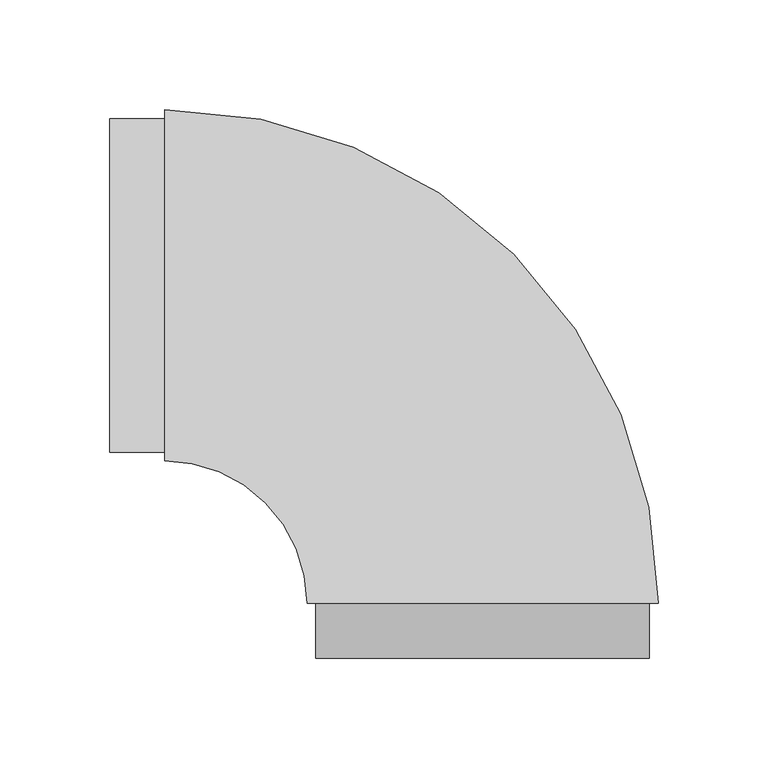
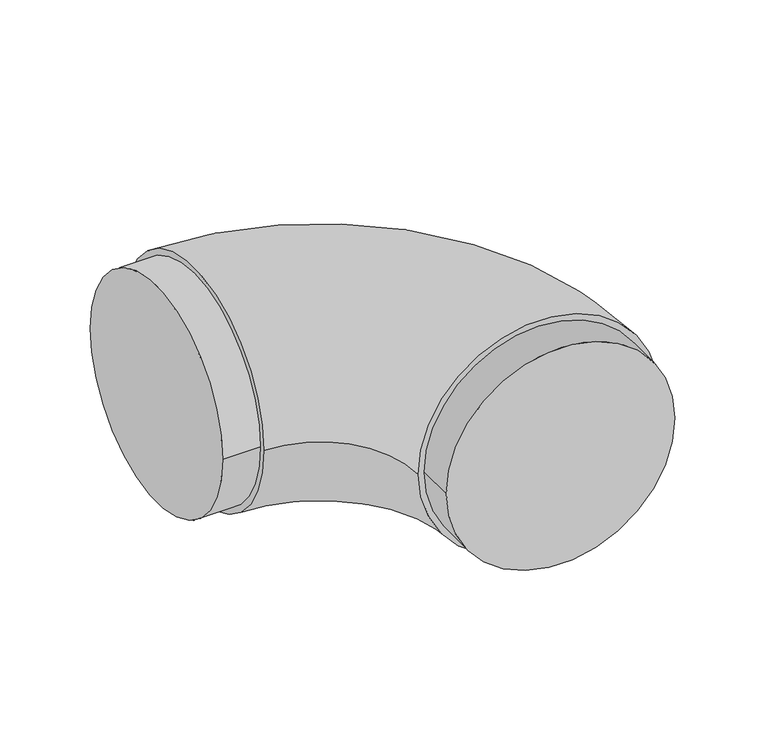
"""IFC4 building model written with IfcOpenShell, lengths in millimetres: pipe fitting geometry, Codo 90º Soldadura a Tope SDR 11 BluePipe : Estándar."""

import ifcopenshell
import ifcopenshell.guid

model = None  # the IFC model being written
_history = None  # IfcOwnerHistory: only IFC2X3 demands one
_inside = {}  # id of a spatial element -> (the spatial element, [elements in it])
_under = {}  # id of a project, library or spatial element -> (it, [spatial elements below it])
_declared = {}  # id of a project -> (the project, [libraries it declares])
_typed = {}  # id of a type object -> (the type object, [elements of that type])
_made_of = {}  # id of a material, layer set ... -> (it, [elements and type objects made of it])


def new_model(schema):
    """Start an empty IFC model of exactly this schema.

    Asked for "IFC4X3", IfcOpenShell would pick the latest addendum, in which some entities
    have other attributes; the version numbers below select the first issue.
    IFC2X3 requires an IfcOwnerHistory on every rooted entity: one is made here for all.
    """
    global model, _history
    if schema == "IFC4X3":
        model = ifcopenshell.file(schema_version=(4, 3, 0, 0))
    else:
        model = ifcopenshell.file(schema=schema)
    _inside.clear()
    _under.clear()
    _declared.clear()
    _typed.clear()
    _made_of.clear()
    _history = None
    if model.schema == "IFC2X3":
        org = make("IfcOrganization", Name="unknown")
        user = make(
            "IfcPersonAndOrganization",
            ThePerson=make("IfcPerson", FamilyName="unknown"),
            TheOrganization=org,
        )
        app = make(
            "IfcApplication",
            ApplicationDeveloper=org,
            Version="unknown",
            ApplicationFullName="unknown",
            ApplicationIdentifier="unknown",
        )
        _history = make(
            "IfcOwnerHistory",
            OwningUser=user,
            OwningApplication=app,
            ChangeAction="ADDED",
            CreationDate=0,
        )
    return model


def make(cls, **values):
    """One entity of the class cls with the attributes given. An attribute that is None is left unset."""
    return model.create_entity(
        cls, **{name: value for name, value in values.items() if value is not None}
    )


def rooted(cls, **values):
    """An entity with a GlobalId (a new one), such as an element, a storey or a relation."""
    return make(cls, GlobalId=ifcopenshell.guid.new(), OwnerHistory=_history, **values)


def si_unit(unit_type, name, prefix=None):
    """IfcSIUnit, for example si_unit("LENGTHUNIT", "METRE", prefix="MILLI")."""
    return make("IfcSIUnit", UnitType=unit_type, Prefix=prefix, Name=name)


def assignment(units):
    """IfcUnitAssignment: the units of a project."""
    return None if units is None else make("IfcUnitAssignment", Units=units)


def point(xyz):
    """IfcCartesianPoint."""
    return None if xyz is None else make("IfcCartesianPoint", Coordinates=xyz)


def direction(xyz):
    """IfcDirection."""
    return None if xyz is None else make("IfcDirection", DirectionRatios=xyz)


def frame(location, z_axis=None, x_axis=None):
    """IfcAxis2Placement3D, a coordinate frame: its origin and axes. An axis left out is left unset."""
    return make(
        "IfcAxis2Placement3D",
        Location=point(location),
        Axis=direction(z_axis),
        RefDirection=direction(x_axis),
    )


def frame_2d(location, x_axis=None):
    """IfcAxis2Placement2D, a coordinate frame in the plane: its origin and x axis."""
    return make(
        "IfcAxis2Placement2D", Location=point(location), RefDirection=direction(x_axis)
    )


def origin():
    """The frame at (0, 0, 0) with its axes left unset."""
    return frame((0.0, 0.0, 0.0))


def origin_2d():
    """The frame at (0, 0) in the plane with its x axis left unset."""
    return frame_2d((0.0, 0.0))


def place(relative_to, where):
    """IfcLocalPlacement: puts the frame where relative to a parent placement (None: the world)."""
    return make(
        "IfcLocalPlacement", PlacementRelTo=relative_to, RelativePlacement=where
    )


def context(
    kind, dimensions, precision=None, world=None, true_north=None, identifier=None
):
    """IfcGeometricRepresentationContext, for example the 3D "Model" context."""
    return make(
        "IfcGeometricRepresentationContext",
        ContextIdentifier=identifier,
        ContextType=kind,
        CoordinateSpaceDimension=dimensions,
        Precision=precision,
        WorldCoordinateSystem=world,
        TrueNorth=true_north,
    )


def project(units=None, contexts=None):
    """IfcProject with its units and contexts."""
    return rooted(
        "IfcProject",
        Name="project",
        RepresentationContexts=contexts,
        UnitsInContext=assignment(units),
    )


def spatial(cls, under=None, at=None, **own):
    """A site, building, storey or space (cls), placed at a placement, below another one or the project."""
    s = rooted(cls, ObjectPlacement=at, **own)
    if under is not None:
        _under.setdefault(under.id(), (under, []))[1].append(s)
    return s


def circle_curve(where, radius):
    """IfcCircle in the frame where."""
    return make("IfcCircle", Position=where, Radius=radius)


def ellipse_curve(where, semi_axis1, semi_axis2):
    """IfcEllipse in the frame where."""
    return make(
        "IfcEllipse", Position=where, SemiAxis1=semi_axis1, SemiAxis2=semi_axis2
    )


def trimmed(basis, trim1, trim2, sense, master):
    """IfcTrimmedCurve: the piece of a basis curve between two trims."""
    return make(
        "IfcTrimmedCurve",
        BasisCurve=basis,
        Trim1=trim1,
        Trim2=trim2,
        SenseAgreement=sense,
        MasterRepresentation=master,
    )


def segment(curve, same_sense, transition):
    """IfcCompositeCurveSegment."""
    return make(
        "IfcCompositeCurveSegment",
        Transition=transition,
        SameSense=same_sense,
        ParentCurve=curve,
    )


def composite_curve(segments, self_intersect=None):
    """IfcCompositeCurve: segments joined end to end."""
    return make("IfcCompositeCurve", Segments=segments, SelfIntersect=self_intersect)


def outline(outer, holes=None, kind="AREA"):
    """IfcArbitraryClosedProfileDef: a profile drawn as a closed curve; with holes, ...WithVoids."""
    if holes is None:
        return make("IfcArbitraryClosedProfileDef", ProfileType=kind, OuterCurve=outer)
    return make(
        "IfcArbitraryProfileDefWithVoids",
        ProfileType=kind,
        OuterCurve=outer,
        InnerCurves=holes,
    )


def extrude(swept, where, along, depth):
    """IfcExtrudedAreaSolid: the profile swept, set in the frame where, extruded along a direction by depth."""
    return make(
        "IfcExtrudedAreaSolid",
        SweptArea=swept,
        Position=where,
        ExtrudedDirection=direction(along),
        Depth=depth,
    )


def shape(context_of_items, identifier, shape_type, items):
    """IfcShapeRepresentation: the items that make up one representation, for example the "Body"."""
    return make(
        "IfcShapeRepresentation",
        ContextOfItems=context_of_items,
        RepresentationIdentifier=identifier,
        RepresentationType=shape_type,
        Items=items,
    )


def source(mapping_origin, context_of_items, identifier, shape_type, items):
    """IfcRepresentationMap: a shape defined once, which mapped items show again and again."""
    return make(
        "IfcRepresentationMap",
        MappingOrigin=mapping_origin,
        MappedRepresentation=shape(context_of_items, identifier, shape_type, items),
    )


def transform(
    local_origin,
    x_axis=None,
    y_axis=None,
    z_axis=None,
    scale=None,
    scale2=None,
    scale3=None,
    uniform=True,
):
    """IfcCartesianTransformationOperator3D, or its non-uniform kind. x_axis, y_axis, z_axis: its Axis1, 2, 3."""
    if uniform:
        return make(
            "IfcCartesianTransformationOperator3D",
            Axis1=direction(x_axis),
            Axis2=direction(y_axis),
            LocalOrigin=point(local_origin),
            Scale=scale,
            Axis3=direction(z_axis),
        )
    return make(
        "IfcCartesianTransformationOperator3DnonUniform",
        Axis1=direction(x_axis),
        Axis2=direction(y_axis),
        LocalOrigin=point(local_origin),
        Scale=scale,
        Axis3=direction(z_axis),
        Scale2=scale2,
        Scale3=scale3,
    )


def mapped(mapping_source, mapping_target):
    """IfcMappedItem: shows the shape of a source again, moved by a transform."""
    return make(
        "IfcMappedItem", MappingSource=mapping_source, MappingTarget=mapping_target
    )


def made_of(thing, what):
    """Note that an element or type object is made of a material, layer set ...; save() writes the relation."""
    if what is not None:
        _made_of.setdefault(what.id(), (what, []))[1].append(thing)
    return thing


def element(
    cls,
    number,
    at=None,
    inside=None,
    cuts=None,
    type_object=None,
    material=None,
    context=None,
    identifier="Body",
    shape_type=None,
    held_by="IfcProductDefinitionShape",
    body=None,
    shapes=None,
    **own,
):
    """One element of the class cls, such as IfcWall. Its Tag is "e" and its number.

    at: its placement. inside: the storey or other place that contains it. cuts: it is an
    opening in that element (IfcRelVoidsElement). A single representation is given by context,
    identifier, shape_type and body (its items); several are given by shapes. held_by: the class
    of the entity that holds the representations. save() writes the other relations.
    """
    e = rooted(cls, Tag="e%d" % number, ObjectPlacement=at, **own)
    if body is not None:
        shapes = [shape(context, identifier, shape_type, body)]
    if shapes is not None:
        e.Representation = make(held_by, Representations=shapes)
    if inside is not None:
        _inside.setdefault(inside.id(), (inside, []))[1].append(e)
    if cuts is not None:
        rooted(
            "IfcRelVoidsElement", RelatingBuildingElement=cuts, RelatedOpeningElement=e
        )
    if type_object is not None:
        _typed.setdefault(type_object.id(), (type_object, []))[1].append(e)
    return made_of(e, material)


def aggregate(whole, parts):
    """IfcRelAggregates: a whole, such as a stair, and the parts it consists of."""
    return rooted("IfcRelAggregates", RelatingObject=whole, RelatedObjects=parts)


def save(model, path):
    """Write the relations noted so far, then the file.

    IfcRelAggregates (storeys below a building ...), IfcRelContainedInSpatialStructure (elements
    in a storey), IfcRelDefinesByType, IfcRelAssociatesMaterial and IfcRelDeclares: one each for
    every whole, place, type object, material and project.
    """
    for whole, parts in _under.values():
        aggregate(whole, parts)
    for where, things in _inside.values():
        rooted(
            "IfcRelContainedInSpatialStructure",
            RelatedElements=things,
            RelatingStructure=where,
        )
    for kind, things in _typed.values():
        rooted("IfcRelDefinesByType", RelatedObjects=things, RelatingType=kind)
    for what, things in _made_of.values():
        rooted("IfcRelAssociatesMaterial", RelatedObjects=things, RelatingMaterial=what)
    for by, libraries in _declared.values():
        rooted("IfcRelDeclares", RelatingContext=by, RelatedDefinitions=libraries)
    model.write(path)


def plane_surface(at):
    """IfcPlane: the flat surface through the origin of the frame at, square to its z axis."""
    return make("IfcPlane", Position=at)


def revolved_surface(curve, axis_point, axis_direction):
    """IfcSurfaceOfRevolution: the curve turned about the line through axis_point along axis_direction."""
    return make(
        "IfcSurfaceOfRevolution",
        SweptCurve=make("IfcArbitraryOpenProfileDef", ProfileType="CURVE", Curve=curve),
        AxisPosition=make("IfcAxis1Placement", Location=point(axis_point), Axis=direction(axis_direction)),
    )


def advanced_brep(points, edges, surfaces, faces):
    """IfcAdvancedBrep: a solid bounded by faces that lie on surfaces and meet in shared edges.

    An edge is (start, end): straight between two places in points (the first is 0);
    or (start, end, curve); or (start, end, curve, False) where it runs against its curve.
    A face is (place in surfaces, loops), or (place, loops, False) where it looks against
    its surface's normal. A loop lists edges by number (the first is 1), with a minus sign
    where the edge is run from its end to its start. The first loop is the outer one.
    """
    corners = [point(p) for p in points]
    vertices = [make("IfcVertexPoint", VertexGeometry=c) for c in corners]
    made = []
    for start, end, *more in edges:
        made.append(
            make(
                "IfcEdgeCurve",
                EdgeStart=vertices[start],
                EdgeEnd=vertices[end],
                EdgeGeometry=more[0] if more else make("IfcPolyline", Points=[corners[start], corners[end]]),
                SameSense=more[1] if len(more) > 1 else True,
            )
        )
    hull = []
    for where, loops, *sense in faces:
        bounds = []
        for j, loop in enumerate(loops):
            ring = [make("IfcOrientedEdge", EdgeElement=made[abs(k) - 1], Orientation=k > 0) for k in loop]
            bounds.append(
                make(
                    "IfcFaceOuterBound" if j == 0 else "IfcFaceBound",
                    Bound=make("IfcEdgeLoop", EdgeList=ring),
                    Orientation=True,
                )
            )
        hull.append(make("IfcAdvancedFace", Bounds=bounds, FaceSurface=surfaces[where], SameSense=sense[0] if sense else True))
    return make("IfcAdvancedBrep", Outer=make("IfcClosedShell", CfsFaces=hull))


def pipe_fitting_b6c68e63(model_context):
    return source(origin(), model_context, "Body", "SolidModel", [
        extrude(outline(composite_curve([segment(trimmed(circle_curve(origin_2d(), 76.0), [point((0.0, -76.0))], [point((0.0, 76.0))], False, "CARTESIAN"), True, "CONTINUOUS"), segment(trimmed(circle_curve(origin_2d(), 76.0), [point((0.0, 76.0))], [point((0.0, -76.0))], False, "CARTESIAN"), True, "CONTINUOUS")], self_intersect=False)), frame((0.0, -170.0, 0.0), z_axis=(0.0, 1.0, 0.0), x_axis=(0.0, 0.0, 1.0)), (0.0, 0.0, 1.0), 25.0),
        extrude(outline(composite_curve([segment(trimmed(circle_curve(origin_2d(), 76.0), [point((76.0, 0.0))], [point((-76.0, 0.0))], False, "CARTESIAN"), True, "CONTINUOUS"), segment(trimmed(circle_curve(origin_2d(), 76.0), [point((-76.0, 0.0))], [point((76.0, 0.0))], False, "CARTESIAN"), True, "CONTINUOUS")], self_intersect=False)), frame((-170.0, 0.0, 0.0), z_axis=(1.0, 0.0, 0.0), x_axis=(0.0, 1.0, 0.0)), (0.0, 0.0, 1.0), 25.0),
        advanced_brep(
        [(-145.0, 80.0, 0.0), (-145.0, -80.0, 0.0), (80.0, -145.0, 0.0), (-80.0, -145.0, 0.0)],
        [
            (0, 1, circle_curve(frame((-145.0, 0.0, 0.0), z_axis=(-1.0, 0.0, 0.0), x_axis=(0.0, -1.0, 0.0)), 80.0)),
            (1, 0, circle_curve(frame((-145.0, 0.0, 0.0), z_axis=(-1.0, 0.0, 0.0), x_axis=(0.0, -1.0, 0.0)), 80.0)),
            (2, 3, circle_curve(frame((0.0, -145.0, 0.0), z_axis=(0.0, -1.0, 0.0), x_axis=(-1.0, 0.0, 0.0)), 80.0)),
            (3, 2, circle_curve(frame((0.0, -145.0, 0.0), z_axis=(0.0, -1.0, 0.0), x_axis=(-1.0, 0.0, 0.0)), 80.0)),
            (2, 0, circle_curve(frame((-145.0, -145.0, 0.0), z_axis=(0.0, 0.0, 1.0), x_axis=(0.0, 1.0, 0.0)), 225.0)),
            (1, 3, circle_curve(frame((-145.0, -145.0, 0.0), z_axis=(0.0, 0.0, -1.0), x_axis=(0.0, 1.0, 0.0)), 65.0)),
        ],
        [
            plane_surface(frame((-145.0, 0.0, 0.0), z_axis=(-1.0, 0.0, 0.0), x_axis=(0.0, 0.0, 1.0))),
            plane_surface(frame((0.0, -145.0, 0.0), z_axis=(0.0, -1.0, 0.0), x_axis=(0.0, 0.0, 1.0))),
            revolved_surface(trimmed(ellipse_curve(frame((-145.0, 0.0, 0.0), z_axis=(1.0, 0.0, 0.0), x_axis=(0.0, -1.0, 0.0)), 80.0, 80.0), [point((-145.0, 80.0, 0.0))], [point((-145.0, -80.0, 0.0))], True, "CARTESIAN"), (-145.0, -145.0, 0.0), (0.0, 0.0, 1.0)),
            revolved_surface(trimmed(ellipse_curve(frame((-145.0, 0.0, 0.0), z_axis=(1.0, 0.0, 0.0), x_axis=(0.0, -1.0, 0.0)), 80.0, 80.0), [point((-145.0, -80.0, 0.0))], [point((-145.0, 80.0, 0.0))], True, "CARTESIAN"), (-145.0, -145.0, 0.0), (0.0, 0.0, 1.0)),
        ],
        [
            (0, [[1, 2]]),
            (1, [[3, 4]]),
            (2, [[-3, 5, -2, 6]]),
            (3, [[-4, -6, -1, -5]]),
        ],
    ),
    ])


if __name__ == "__main__":
    model = new_model("IFC4")
    model_context = context("Model", 3, world=origin())
    ifc_project = project(units=[si_unit("LENGTHUNIT", "METRE", prefix="MILLI")], contexts=[model_context])
    site = spatial("IfcSite", under=ifc_project)
    building = spatial("IfcBuilding", under=site)
    placement = place(None, origin())
    pipe_fitting_shape = pipe_fitting_b6c68e63(model_context)
    element("IfcPipeFitting", 1, ObjectType="Codo 90º Soldadura a Tope SDR 11 BluePipe : Estándar", at=placement, inside=building, context=model_context, shape_type="MappedRepresentation", body=[
        mapped(pipe_fitting_shape, transform((0.0, 0.0, 0.0), x_axis=(1.0, 0.0, 0.0), y_axis=(0.0, 1.0, 0.0), z_axis=(0.0, 0.0, 1.0))),
    ])
    save(model, "model.ifc")
